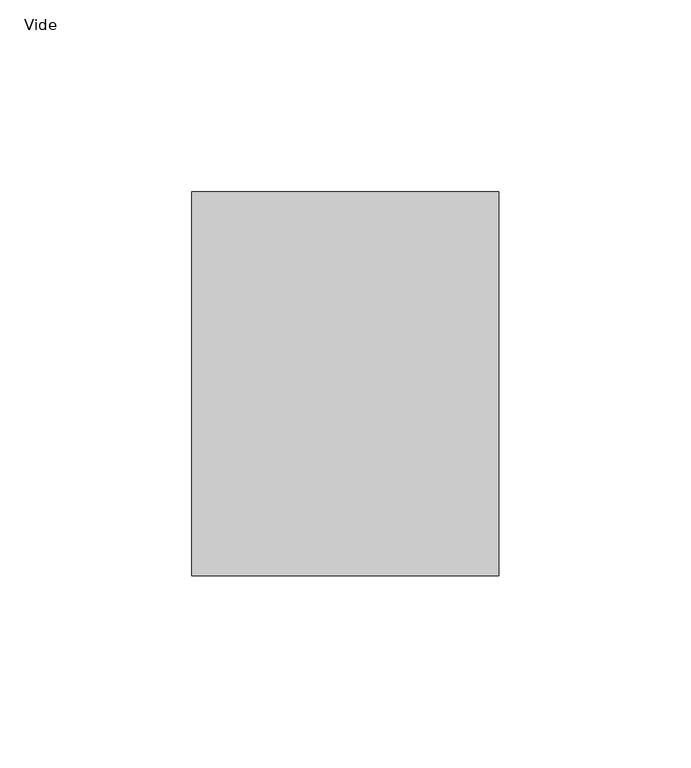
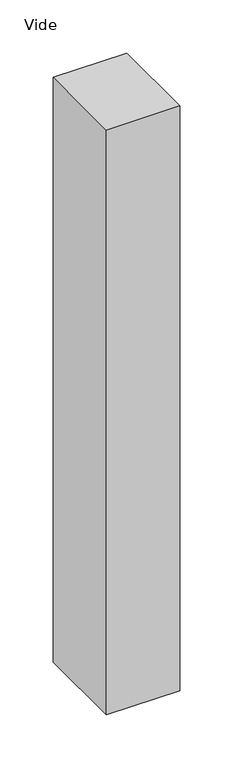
"""IFC4 building model written with IfcOpenShell, lengths in millimetres: plate geometry, Panneau système vide : Vide."""

import ifcopenshell
import ifcopenshell.guid

model = None  # the IFC model being written
_history = None  # IfcOwnerHistory: only IFC2X3 demands one
_inside = {}  # id of a spatial element -> (the spatial element, [elements in it])
_under = {}  # id of a project, library or spatial element -> (it, [spatial elements below it])
_declared = {}  # id of a project -> (the project, [libraries it declares])
_typed = {}  # id of a type object -> (the type object, [elements of that type])
_made_of = {}  # id of a material, layer set ... -> (it, [elements and type objects made of it])


def new_model(schema):
    """Start an empty IFC model of exactly this schema.

    Asked for "IFC4X3", IfcOpenShell would pick the latest addendum, in which some entities
    have other attributes; the version numbers below select the first issue.
    IFC2X3 requires an IfcOwnerHistory on every rooted entity: one is made here for all.
    """
    global model, _history
    if schema == "IFC4X3":
        model = ifcopenshell.file(schema_version=(4, 3, 0, 0))
    else:
        model = ifcopenshell.file(schema=schema)
    _inside.clear()
    _under.clear()
    _declared.clear()
    _typed.clear()
    _made_of.clear()
    _history = None
    if model.schema == "IFC2X3":
        org = make("IfcOrganization", Name="unknown")
        user = make(
            "IfcPersonAndOrganization",
            ThePerson=make("IfcPerson", FamilyName="unknown"),
            TheOrganization=org,
        )
        app = make(
            "IfcApplication",
            ApplicationDeveloper=org,
            Version="unknown",
            ApplicationFullName="unknown",
            ApplicationIdentifier="unknown",
        )
        _history = make(
            "IfcOwnerHistory",
            OwningUser=user,
            OwningApplication=app,
            ChangeAction="ADDED",
            CreationDate=0,
        )
    return model


def make(cls, **values):
    """One entity of the class cls with the attributes given. An attribute that is None is left unset."""
    return model.create_entity(
        cls, **{name: value for name, value in values.items() if value is not None}
    )


def rooted(cls, **values):
    """An entity with a GlobalId (a new one), such as an element, a storey or a relation."""
    return make(cls, GlobalId=ifcopenshell.guid.new(), OwnerHistory=_history, **values)


def si_unit(unit_type, name, prefix=None):
    """IfcSIUnit, for example si_unit("LENGTHUNIT", "METRE", prefix="MILLI")."""
    return make("IfcSIUnit", UnitType=unit_type, Prefix=prefix, Name=name)


def assignment(units):
    """IfcUnitAssignment: the units of a project."""
    return None if units is None else make("IfcUnitAssignment", Units=units)


def point(xyz):
    """IfcCartesianPoint."""
    return None if xyz is None else make("IfcCartesianPoint", Coordinates=xyz)


def direction(xyz):
    """IfcDirection."""
    return None if xyz is None else make("IfcDirection", DirectionRatios=xyz)


def frame(location, z_axis=None, x_axis=None):
    """IfcAxis2Placement3D, a coordinate frame: its origin and axes. An axis left out is left unset."""
    return make(
        "IfcAxis2Placement3D",
        Location=point(location),
        Axis=direction(z_axis),
        RefDirection=direction(x_axis),
    )


def origin():
    """The frame at (0, 0, 0) with its axes left unset."""
    return frame((0.0, 0.0, 0.0))


def origin_with_axes():
    """The frame at (0, 0, 0) with the z axis (0, 0, 1) and the x axis (1, 0, 0) written out."""
    return frame((0.0, 0.0, 0.0), z_axis=(0.0, 0.0, 1.0), x_axis=(1.0, 0.0, 0.0))


def place(relative_to, where):
    """IfcLocalPlacement: puts the frame where relative to a parent placement (None: the world)."""
    return make(
        "IfcLocalPlacement", PlacementRelTo=relative_to, RelativePlacement=where
    )


def context(
    kind, dimensions, precision=None, world=None, true_north=None, identifier=None
):
    """IfcGeometricRepresentationContext, for example the 3D "Model" context."""
    return make(
        "IfcGeometricRepresentationContext",
        ContextIdentifier=identifier,
        ContextType=kind,
        CoordinateSpaceDimension=dimensions,
        Precision=precision,
        WorldCoordinateSystem=world,
        TrueNorth=true_north,
    )


def project(units=None, contexts=None):
    """IfcProject with its units and contexts."""
    return rooted(
        "IfcProject",
        Name="project",
        RepresentationContexts=contexts,
        UnitsInContext=assignment(units),
    )


def spatial(cls, under=None, at=None, **own):
    """A site, building, storey or space (cls), placed at a placement, below another one or the project."""
    s = rooted(cls, ObjectPlacement=at, **own)
    if under is not None:
        _under.setdefault(under.id(), (under, []))[1].append(s)
    return s


def polyline(points):
    """IfcPolyline through the points."""
    return make("IfcPolyline", Points=[point(p) for p in points])


def outline(outer, holes=None, kind="AREA"):
    """IfcArbitraryClosedProfileDef: a profile drawn as a closed curve; with holes, ...WithVoids."""
    if holes is None:
        return make("IfcArbitraryClosedProfileDef", ProfileType=kind, OuterCurve=outer)
    return make(
        "IfcArbitraryProfileDefWithVoids",
        ProfileType=kind,
        OuterCurve=outer,
        InnerCurves=holes,
    )


def extrude(swept, where, along, depth):
    """IfcExtrudedAreaSolid: the profile swept, set in the frame where, extruded along a direction by depth."""
    return make(
        "IfcExtrudedAreaSolid",
        SweptArea=swept,
        Position=where,
        ExtrudedDirection=direction(along),
        Depth=depth,
    )


def shape(context_of_items, identifier, shape_type, items):
    """IfcShapeRepresentation: the items that make up one representation, for example the "Body"."""
    return make(
        "IfcShapeRepresentation",
        ContextOfItems=context_of_items,
        RepresentationIdentifier=identifier,
        RepresentationType=shape_type,
        Items=items,
    )


def source(mapping_origin, context_of_items, identifier, shape_type, items):
    """IfcRepresentationMap: a shape defined once, which mapped items show again and again."""
    return make(
        "IfcRepresentationMap",
        MappingOrigin=mapping_origin,
        MappedRepresentation=shape(context_of_items, identifier, shape_type, items),
    )


def transform(
    local_origin,
    x_axis=None,
    y_axis=None,
    z_axis=None,
    scale=None,
    scale2=None,
    scale3=None,
    uniform=True,
):
    """IfcCartesianTransformationOperator3D, or its non-uniform kind. x_axis, y_axis, z_axis: its Axis1, 2, 3."""
    if uniform:
        return make(
            "IfcCartesianTransformationOperator3D",
            Axis1=direction(x_axis),
            Axis2=direction(y_axis),
            LocalOrigin=point(local_origin),
            Scale=scale,
            Axis3=direction(z_axis),
        )
    return make(
        "IfcCartesianTransformationOperator3DnonUniform",
        Axis1=direction(x_axis),
        Axis2=direction(y_axis),
        LocalOrigin=point(local_origin),
        Scale=scale,
        Axis3=direction(z_axis),
        Scale2=scale2,
        Scale3=scale3,
    )


def mapped(mapping_source, mapping_target):
    """IfcMappedItem: shows the shape of a source again, moved by a transform."""
    return make(
        "IfcMappedItem", MappingSource=mapping_source, MappingTarget=mapping_target
    )


def made_of(thing, what):
    """Note that an element or type object is made of a material, layer set ...; save() writes the relation."""
    if what is not None:
        _made_of.setdefault(what.id(), (what, []))[1].append(thing)
    return thing


def element(
    cls,
    number,
    at=None,
    inside=None,
    cuts=None,
    type_object=None,
    material=None,
    context=None,
    identifier="Body",
    shape_type=None,
    held_by="IfcProductDefinitionShape",
    body=None,
    shapes=None,
    **own,
):
    """One element of the class cls, such as IfcWall. Its Tag is "e" and its number.

    at: its placement. inside: the storey or other place that contains it. cuts: it is an
    opening in that element (IfcRelVoidsElement). A single representation is given by context,
    identifier, shape_type and body (its items); several are given by shapes. held_by: the class
    of the entity that holds the representations. save() writes the other relations.
    """
    e = rooted(cls, Tag="e%d" % number, ObjectPlacement=at, **own)
    if body is not None:
        shapes = [shape(context, identifier, shape_type, body)]
    if shapes is not None:
        e.Representation = make(held_by, Representations=shapes)
    if inside is not None:
        _inside.setdefault(inside.id(), (inside, []))[1].append(e)
    if cuts is not None:
        rooted(
            "IfcRelVoidsElement", RelatingBuildingElement=cuts, RelatedOpeningElement=e
        )
    if type_object is not None:
        _typed.setdefault(type_object.id(), (type_object, []))[1].append(e)
    return made_of(e, material)


def aggregate(whole, parts):
    """IfcRelAggregates: a whole, such as a stair, and the parts it consists of."""
    return rooted("IfcRelAggregates", RelatingObject=whole, RelatedObjects=parts)


def save(model, path):
    """Write the relations noted so far, then the file.

    IfcRelAggregates (storeys below a building ...), IfcRelContainedInSpatialStructure (elements
    in a storey), IfcRelDefinesByType, IfcRelAssociatesMaterial and IfcRelDeclares: one each for
    every whole, place, type object, material and project.
    """
    for whole, parts in _under.values():
        aggregate(whole, parts)
    for where, things in _inside.values():
        rooted(
            "IfcRelContainedInSpatialStructure",
            RelatedElements=things,
            RelatingStructure=where,
        )
    for kind, things in _typed.values():
        rooted("IfcRelDefinesByType", RelatedObjects=things, RelatingType=kind)
    for what, things in _made_of.values():
        rooted("IfcRelAssociatesMaterial", RelatedObjects=things, RelatingMaterial=what)
    for by, libraries in _declared.values():
        rooted("IfcRelDeclares", RelatingContext=by, RelatedDefinitions=libraries)
    model.write(path)


def vide_253f0f0f(model_context):
    return source(origin(), model_context, "Body", "SweptSolid", [
        extrude(outline(polyline([(40.0, 50.0), (-40.0, 50.0), (-40.0, 150.0), (40.0, 150.0), (40.0, 50.0)])), origin_with_axes(), (0.0, 0.0, 1.0), 672.9295173),
    ])


if __name__ == "__main__":
    model = new_model("IFC4")
    model_context = context("Model", 3, world=origin())
    ifc_project = project(units=[si_unit("LENGTHUNIT", "METRE", prefix="MILLI")], contexts=[model_context])
    site = spatial("IfcSite", under=ifc_project)
    building = spatial("IfcBuilding", under=site)
    placement = place(None, origin())
    vide_shape = vide_253f0f0f(model_context)
    element("IfcPlate", 1, ObjectType="Panneau système vide : Vide", at=placement, inside=building, context=model_context, shape_type="MappedRepresentation", body=[
        mapped(vide_shape, transform((0.0, 0.0, 0.0), x_axis=(1.0, 0.0, 0.0), y_axis=(0.0, 1.0, 0.0), z_axis=(0.0, 0.0, 1.0))),
    ])
    save(model, "model.ifc")
